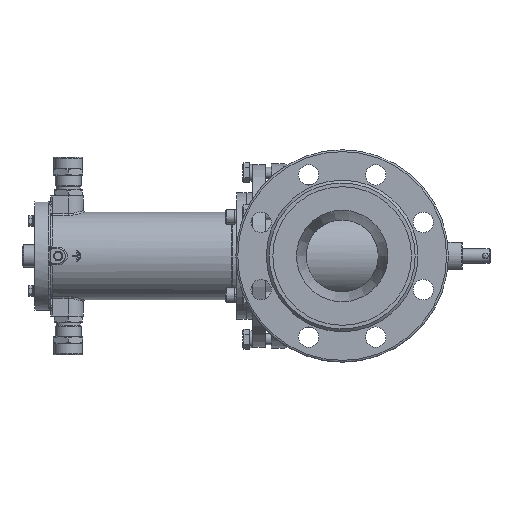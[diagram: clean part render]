
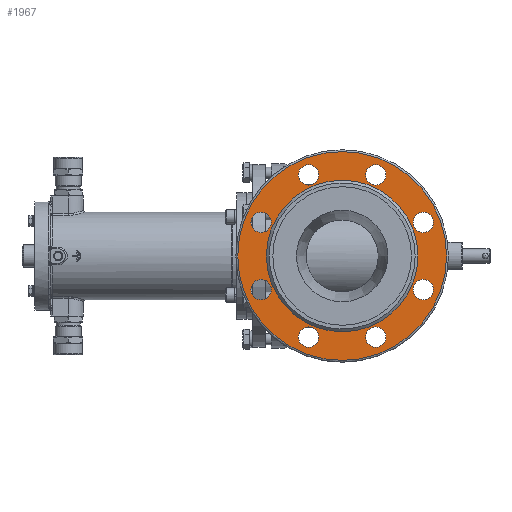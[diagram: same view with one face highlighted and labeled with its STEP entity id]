
A CAD part, left-side view. The second image highlights one B-rep face of the part: STEP entity #1967.
In plain terms, the highlighted planar face has unit normal (-1, 0, 0).
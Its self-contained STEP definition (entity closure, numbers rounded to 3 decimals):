
#1967=ADVANCED_FACE('',(#22076,#22078,#22080,#22082,#22084,#22086,#22088,#22090,
#22092,#22094),#22096,.T.);
#22076=FACE_BOUND('',#22077,.T.);
#22077=EDGE_LOOP('',(#33626));
#22078=FACE_BOUND('',#22079,.T.);
#22079=EDGE_LOOP('',(#33627));
#22080=FACE_BOUND('',#22081,.T.);
#22081=EDGE_LOOP('',(#33628));
#22082=FACE_BOUND('',#22083,.T.);
#22083=EDGE_LOOP('',(#33629));
#22084=FACE_BOUND('',#22085,.T.);
#22085=EDGE_LOOP('',(#33630));
#22086=FACE_BOUND('',#22087,.T.);
#22087=EDGE_LOOP('',(#33631));
#22088=FACE_BOUND('',#22089,.T.);
#22089=EDGE_LOOP('',(#33632));
#22090=FACE_BOUND('',#22091,.T.);
#22091=EDGE_LOOP('',(#33633));
#22092=FACE_BOUND('',#22093,.T.);
#22093=EDGE_LOOP('',(#33634));
#22094=FACE_OUTER_BOUND('',#22095,.T.);
#22095=EDGE_LOOP('',(#33635));
#22096=PLANE('',#22097);
#22097=AXIS2_PLACEMENT_3D('',#22098,#22099,#22100);
#22098=CARTESIAN_POINT('',(-151.,0.,0.));
#22099=DIRECTION('',(-1.,0.,0.));
#22100=DIRECTION('',(0.,1.,0.));
#33626=ORIENTED_EDGE('',*,*,#41610,.F.);
#33627=ORIENTED_EDGE('',*,*,#41579,.T.);
#33628=ORIENTED_EDGE('',*,*,#41577,.T.);
#33629=ORIENTED_EDGE('',*,*,#41575,.T.);
#33630=ORIENTED_EDGE('',*,*,#41573,.T.);
#33631=ORIENTED_EDGE('',*,*,#41571,.T.);
#33632=ORIENTED_EDGE('',*,*,#41569,.T.);
#33633=ORIENTED_EDGE('',*,*,#41567,.T.);
#33634=ORIENTED_EDGE('',*,*,#41565,.T.);
#33635=ORIENTED_EDGE('',*,*,#41611,.T.);
#41565=EDGE_CURVE('',#50089,#50089,#50091,.F.);
#41567=EDGE_CURVE('',#50092,#50092,#50094,.F.);
#41569=EDGE_CURVE('',#50095,#50095,#50097,.F.);
#41571=EDGE_CURVE('',#50098,#50098,#50100,.F.);
#41573=EDGE_CURVE('',#50101,#50101,#50103,.F.);
#41575=EDGE_CURVE('',#50104,#50104,#50106,.F.);
#41577=EDGE_CURVE('',#50107,#50107,#50109,.F.);
#41579=EDGE_CURVE('',#50110,#50110,#50112,.F.);
#41610=EDGE_CURVE('',#50167,#50167,#50168,.T.);
#41611=EDGE_CURVE('',#50169,#50169,#50170,.T.);
#50089=VERTEX_POINT('',#80365);
#50091=CIRCLE('',#80369,11.);
#50092=VERTEX_POINT('',#80373);
#50094=CIRCLE('',#80377,11.);
#50095=VERTEX_POINT('',#80381);
#50097=CIRCLE('',#80385,11.);
#50098=VERTEX_POINT('',#80389);
#50100=CIRCLE('',#80393,11.);
#50101=VERTEX_POINT('',#80397);
#50103=CIRCLE('',#80401,11.);
#50104=VERTEX_POINT('',#80405);
#50106=CIRCLE('',#80409,11.);
#50107=VERTEX_POINT('',#80413);
#50109=CIRCLE('',#80417,11.);
#50110=VERTEX_POINT('',#80421);
#50112=CIRCLE('',#80425,11.);
#50167=VERTEX_POINT('',#80677);
#50168=CIRCLE('',#80678,82.);
#50169=VERTEX_POINT('',#80682);
#50170=CIRCLE('',#80683,113.);
#80365=CARTESIAN_POINT('',(-151.,87.769,25.355));
#80369=AXIS2_PLACEMENT_3D('',#80370,#80371,#80372);
#80370=CARTESIAN_POINT('',(-151.,87.769,36.355));
#80371=DIRECTION('',(-1.,0.,0.));
#80372=DIRECTION('',(0.,0.,-1.));
#80373=CARTESIAN_POINT('',(-151.,87.769,-47.355));
#80377=AXIS2_PLACEMENT_3D('',#80378,#80379,#80380);
#80378=CARTESIAN_POINT('',(-151.,87.769,-36.355));
#80379=DIRECTION('',(-1.,0.,0.));
#80380=DIRECTION('',(0.,0.,-1.));
#80381=CARTESIAN_POINT('',(-151.,36.355,-98.769));
#80385=AXIS2_PLACEMENT_3D('',#80386,#80387,#80388);
#80386=CARTESIAN_POINT('',(-151.,36.355,-87.769));
#80387=DIRECTION('',(-1.,0.,0.));
#80388=DIRECTION('',(0.,0.,-1.));
#80389=CARTESIAN_POINT('',(-151.,36.355,76.769));
#80393=AXIS2_PLACEMENT_3D('',#80394,#80395,#80396);
#80394=CARTESIAN_POINT('',(-151.,36.355,87.769));
#80395=DIRECTION('',(-1.,0.,0.));
#80396=DIRECTION('',(0.,0.,-1.));
#80397=CARTESIAN_POINT('',(-151.,-87.769,25.355));
#80401=AXIS2_PLACEMENT_3D('',#80402,#80403,#80404);
#80402=CARTESIAN_POINT('',(-151.,-87.769,36.355));
#80403=DIRECTION('',(-1.,0.,0.));
#80404=DIRECTION('',(0.,0.,-1.));
#80405=CARTESIAN_POINT('',(-151.,-87.769,-47.355));
#80409=AXIS2_PLACEMENT_3D('',#80410,#80411,#80412);
#80410=CARTESIAN_POINT('',(-151.,-87.769,-36.355));
#80411=DIRECTION('',(-1.,0.,0.));
#80412=DIRECTION('',(0.,0.,-1.));
#80413=CARTESIAN_POINT('',(-151.,-36.355,-98.769));
#80417=AXIS2_PLACEMENT_3D('',#80418,#80419,#80420);
#80418=CARTESIAN_POINT('',(-151.,-36.355,-87.769));
#80419=DIRECTION('',(-1.,0.,0.));
#80420=DIRECTION('',(0.,0.,-1.));
#80421=CARTESIAN_POINT('',(-151.,-36.355,76.769));
#80425=AXIS2_PLACEMENT_3D('',#80426,#80427,#80428);
#80426=CARTESIAN_POINT('',(-151.,-36.355,87.769));
#80427=DIRECTION('',(-1.,0.,0.));
#80428=DIRECTION('',(0.,0.,-1.));
#80677=CARTESIAN_POINT('',(-151.,82.,0.));
#80678=AXIS2_PLACEMENT_3D('',#80679,#80680,#80681);
#80679=CARTESIAN_POINT('',(-151.,0.,0.));
#80680=DIRECTION('',(-1.,0.,0.));
#80681=DIRECTION('',(0.,1.,0.));
#80682=CARTESIAN_POINT('',(-151.,113.,0.));
#80683=AXIS2_PLACEMENT_3D('',#80684,#80685,#80686);
#80684=CARTESIAN_POINT('',(-151.,0.,0.));
#80685=DIRECTION('',(-1.,0.,0.));
#80686=DIRECTION('',(0.,1.,0.));
